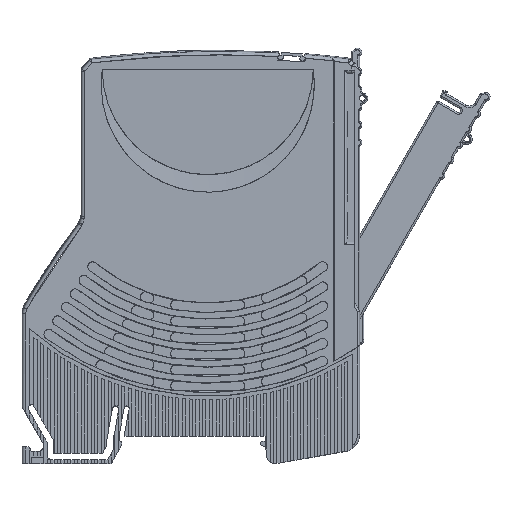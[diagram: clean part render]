
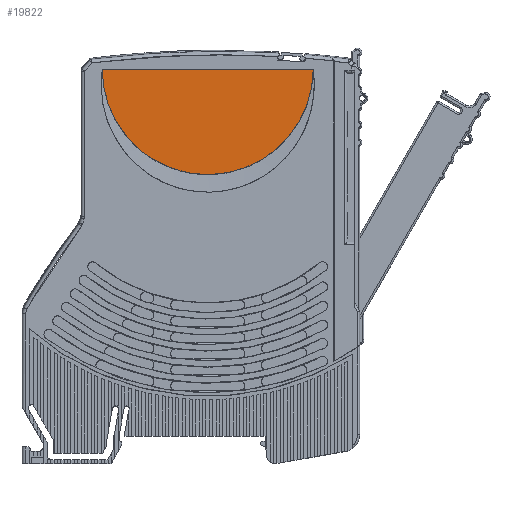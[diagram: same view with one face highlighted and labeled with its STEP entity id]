
A CAD part, top view. The second image highlights one B-rep face of the part: STEP entity #19822.
In plain terms, the highlighted planar face has unit normal (0, 0.018, -1).
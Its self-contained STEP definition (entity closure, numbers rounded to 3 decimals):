
#19773=DIRECTION('',(-1.,0.,0.));
#19774=VECTOR('',#19773,50.);
#19775=CARTESIAN_POINT('',(29.,87.,6.15));
#19776=LINE('',#19775,#19774);
#19780=CARTESIAN_POINT('',(-21.,87.,6.15));
#19781=CARTESIAN_POINT('',(-20.998,85.67,
6.127));
#19782=CARTESIAN_POINT('',(-20.791,83.051,
6.081));
#19783=CARTESIAN_POINT('',(-19.862,79.203,
6.014));
#19784=CARTESIAN_POINT('',(-18.345,75.567,
5.95));
#19785=CARTESIAN_POINT('',(-16.316,72.26,
5.893));
#19786=CARTESIAN_POINT('',(-13.753,69.254,
5.84));
#19787=CARTESIAN_POINT('',(-10.766,66.703,
5.796));
#19788=CARTESIAN_POINT('',(-7.421,64.65,
5.76));
#19789=CARTESIAN_POINT('',(-3.798,63.143,
5.734));
#19790=CARTESIAN_POINT('',(0.02,62.219,
5.717));
#19791=CARTESIAN_POINT('',(3.94,61.901,5.712));
#19792=CARTESIAN_POINT('',(7.867,62.2,5.717));
#19793=CARTESIAN_POINT('',(11.704,63.112,5.733));
#19794=CARTESIAN_POINT('',(15.356,64.615,5.759));
#19795=CARTESIAN_POINT('',(18.732,66.676,5.795));
#19796=CARTESIAN_POINT('',(21.745,69.244,5.84));
#19797=CARTESIAN_POINT('',(24.325,72.27,5.893));
#19798=CARTESIAN_POINT('',(26.36,75.594,5.951));
#19799=CARTESIAN_POINT('',(27.874,79.238,6.015));
#19800=CARTESIAN_POINT('',(28.795,83.079,6.082));
#19801=CARTESIAN_POINT('',(28.999,85.681,6.127));
#19802=CARTESIAN_POINT('',(29.,87.,6.15));
#19807=CARTESIAN_POINT('',(-21.,87.,6.15));
#19808=CARTESIAN_POINT('',(29.,87.,6.15));
#19809=VERTEX_POINT('',#19807);
#19810=VERTEX_POINT('',#19808);
#19811=CARTESIAN_POINT('',(4.,74.502,5.932));
#19812=DIRECTION('',(0.,-0.017,1.));
#19813=DIRECTION('',(0.,-1.,-0.017));
#19814=AXIS2_PLACEMENT_3D('',#19811,#19812,#19813);
#19815=PLANE('',#19814);
#19817=ORIENTED_EDGE('',*,*,#19816,.T.);
#19819=ORIENTED_EDGE('',*,*,#19818,.T.);
#19820=EDGE_LOOP('',(#19817,#19819));
#19821=FACE_OUTER_BOUND('',#19820,.F.);
#19803=B_SPLINE_CURVE_WITH_KNOTS('',3,(#19780,#19781,#19782,#19783,#19784,
#19785,#19786,#19787,#19788,#19789,#19790,#19791,#19792,#19793,#19794,#19795,
#19796,#19797,#19798,#19799,#19800,#19801,#19802),.UNSPECIFIED.,.F.,.F.,(4,1,1,
1,1,1,1,1,1,1,1,1,1,1,1,1,1,1,1,1,4),(0.,0.05,0.1,0.15,0.2,0.25,
0.3,0.35,0.4,0.45,0.5,0.55,0.6,0.65,0.7,0.75,0.8,0.85,
0.9,0.95,1.),.UNSPECIFIED.);
#19816=EDGE_CURVE('',#19810,#19809,#19776,.T.);
#19818=EDGE_CURVE('',#19809,#19810,#19803,.T.);
#19822=ADVANCED_FACE('',(#19821),#19815,.F.);
